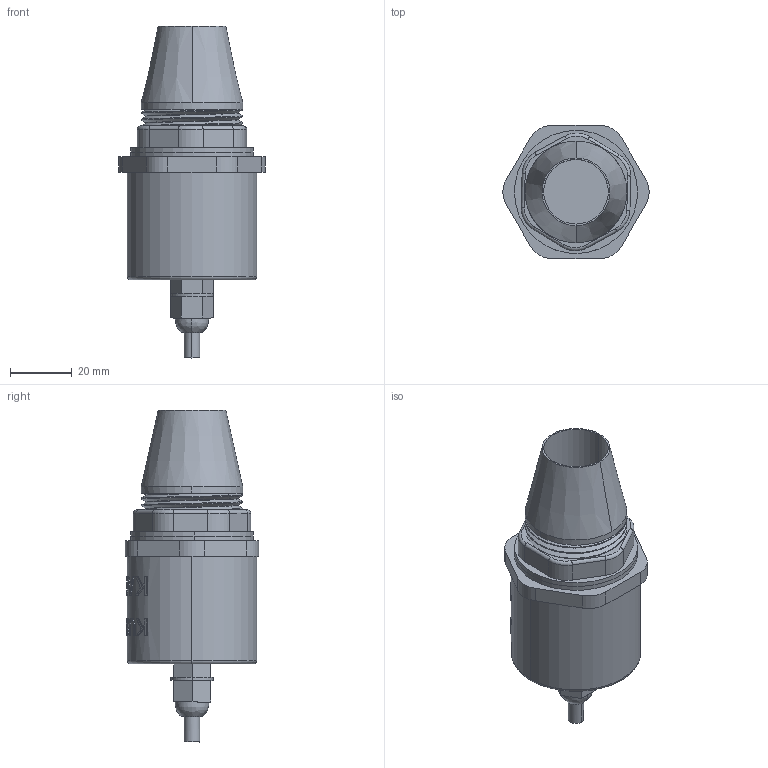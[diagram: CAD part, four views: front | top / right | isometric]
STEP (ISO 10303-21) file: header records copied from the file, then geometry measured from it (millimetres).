
FILE_DESCRIPTION((''),'2;1');
FILE_NAME('KUS600ZZZ00_ASM','2025-12-24T15:45:56',('28740194'),(''),'CREO PARAMETRIC BY PTC INC, 2024063','CREO PARAMETRIC BY PTC INC, 2024063','');
FILE_SCHEMA(('CONFIG_CONTROL_DESIGN'));
Length unit declared in the file: millimetre
Products named in the file (5): KUS60000; 00; 000; KUS600ZZZ00_ASM
Assembly tree (5 placements, depth 2):
  KUS600ZZZ00_ASM
    KUS60000
    00  x2
    00
    000
Bounding box: 47.52 x 43.3 x 107.92 mm (x, y, z)
Volume: 83116.3 mm3; surface area: 20515.7 mm2
Topology: 5 solids, 5 shells, 520 faces, 1425 edges, 935 vertices
Faces by surface type: bspline 382, cylinder 64, plane 62, torus 8, cone 4
Entity records: 22987 total; most frequent: CARTESIAN_POINT 12657, ORIENTED_EDGE 2826, EDGE_CURVE 1413, B_SPLINE_CURVE_WITH_KNOTS 968, DIRECTION 945, VERTEX_POINT 927, EDGE_LOOP 538, FACE_OUTER_BOUND 514
